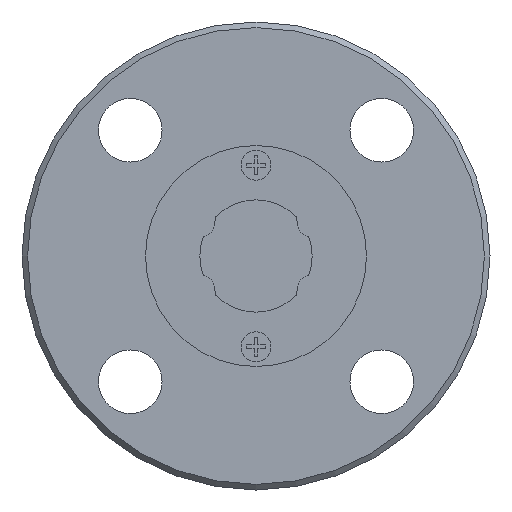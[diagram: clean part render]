
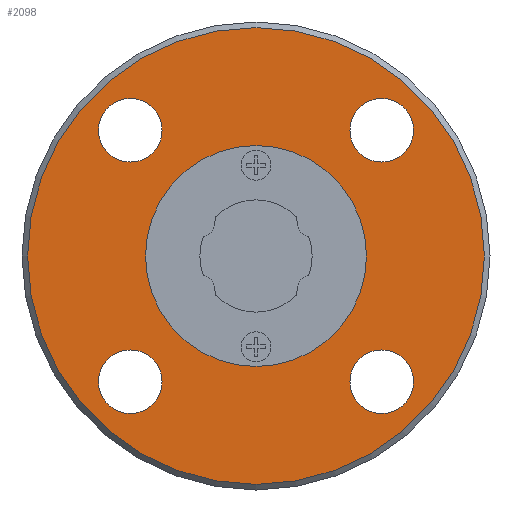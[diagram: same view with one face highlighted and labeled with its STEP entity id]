
A CAD part, left-side view. The second image highlights one B-rep face of the part: STEP entity #2098.
In plain terms, the highlighted planar face has unit normal (-1, 0, 0).
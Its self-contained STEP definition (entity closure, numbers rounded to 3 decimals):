
#48=PLANE('',#2319);
#702=ORIENTED_EDGE('',*,*,#1233,.F.);
#703=ORIENTED_EDGE('',*,*,#1234,.F.);
#704=ORIENTED_EDGE('',*,*,#1235,.F.);
#705=ORIENTED_EDGE('',*,*,#1236,.F.);
#706=ORIENTED_EDGE('',*,*,#1237,.F.);
#707=ORIENTED_EDGE('',*,*,#1232,.T.);
#1232=EDGE_CURVE('',#1508,#1508,#1676,.T.);
#1233=EDGE_CURVE('',#1509,#1509,#1677,.T.);
#1234=EDGE_CURVE('',#1510,#1510,#1678,.F.);
#1235=EDGE_CURVE('',#1511,#1511,#1679,.F.);
#1236=EDGE_CURVE('',#1512,#1512,#1680,.F.);
#1237=EDGE_CURVE('',#1513,#1513,#1681,.F.);
#1508=VERTEX_POINT('',#3339);
#1509=VERTEX_POINT('',#3342);
#1510=VERTEX_POINT('',#3344);
#1511=VERTEX_POINT('',#3346);
#1512=VERTEX_POINT('',#3348);
#1513=VERTEX_POINT('',#3350);
#1676=CIRCLE('',#2318,5.9);
#1677=CIRCLE('',#2320,12.2);
#1678=CIRCLE('',#2321,1.7);
#1679=CIRCLE('',#2322,1.7);
#1680=CIRCLE('',#2323,1.7);
#1681=CIRCLE('',#2324,1.7);
#1732=EDGE_LOOP('',(#702));
#1733=EDGE_LOOP('',(#703));
#1734=EDGE_LOOP('',(#704));
#1735=EDGE_LOOP('',(#705));
#1736=EDGE_LOOP('',(#706));
#1737=EDGE_LOOP('',(#707));
#1896=FACE_BOUND('',#1732,.T.);
#1897=FACE_BOUND('',#1733,.T.);
#1898=FACE_BOUND('',#1734,.T.);
#1899=FACE_BOUND('',#1735,.T.);
#1900=FACE_BOUND('',#1736,.T.);
#1901=FACE_BOUND('',#1737,.T.);
#2098=ADVANCED_FACE('',(#1896,#1897,#1898,#1899,#1900,#1901),#48,.F.);
#2318=AXIS2_PLACEMENT_3D('',#3338,#2695,#2696);
#2319=AXIS2_PLACEMENT_3D('',#3340,#2697,#2698);
#2320=AXIS2_PLACEMENT_3D('',#3341,#2699,#2700);
#2321=AXIS2_PLACEMENT_3D('',#3343,#2701,#2702);
#2322=AXIS2_PLACEMENT_3D('',#3345,#2703,#2704);
#2323=AXIS2_PLACEMENT_3D('',#3347,#2705,#2706);
#2324=AXIS2_PLACEMENT_3D('',#3349,#2707,#2708);
#2695=DIRECTION('',(1.,0.,0.));
#2696=DIRECTION('',(0.,0.,-1.));
#2697=DIRECTION('',(1.,0.,0.));
#2698=DIRECTION('',(0.,0.,-1.));
#2699=DIRECTION('',(1.,0.,0.));
#2700=DIRECTION('',(0.,0.,-1.));
#2701=DIRECTION('',(1.,0.,0.));
#2702=DIRECTION('',(0.,0.,-1.));
#2703=DIRECTION('',(1.,0.,0.));
#2704=DIRECTION('',(0.,0.,-1.));
#2705=DIRECTION('',(1.,0.,0.));
#2706=DIRECTION('',(0.,0.,-1.));
#2707=DIRECTION('',(1.,0.,0.));
#2708=DIRECTION('',(0.,0.,-1.));
#3338=CARTESIAN_POINT('',(-5.1,0.,0.));
#3339=CARTESIAN_POINT('',(-5.1,0.,-5.9));
#3340=CARTESIAN_POINT('',(-5.1,5.9,0.));
#3341=CARTESIAN_POINT('',(-5.1,0.,0.));
#3342=CARTESIAN_POINT('',(-5.1,0.,-12.2));
#3343=CARTESIAN_POINT('',(-5.1,-6.718,6.718));
#3344=CARTESIAN_POINT('',(-5.1,-6.718,5.018));
#3345=CARTESIAN_POINT('',(-5.1,-6.718,-6.718));
#3346=CARTESIAN_POINT('',(-5.1,-6.718,-8.418));
#3347=CARTESIAN_POINT('',(-5.1,6.718,-6.718));
#3348=CARTESIAN_POINT('',(-5.1,6.718,-8.418));
#3349=CARTESIAN_POINT('',(-5.1,6.718,6.718));
#3350=CARTESIAN_POINT('',(-5.1,6.718,5.018));
